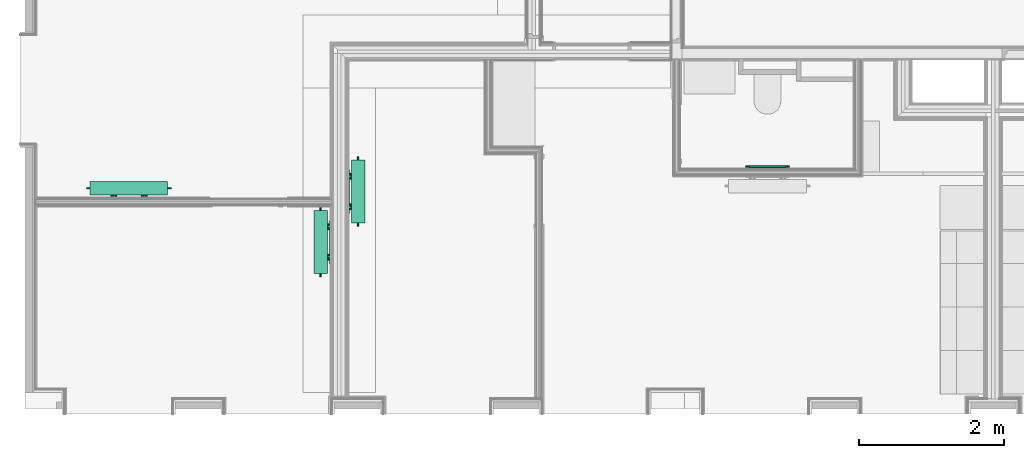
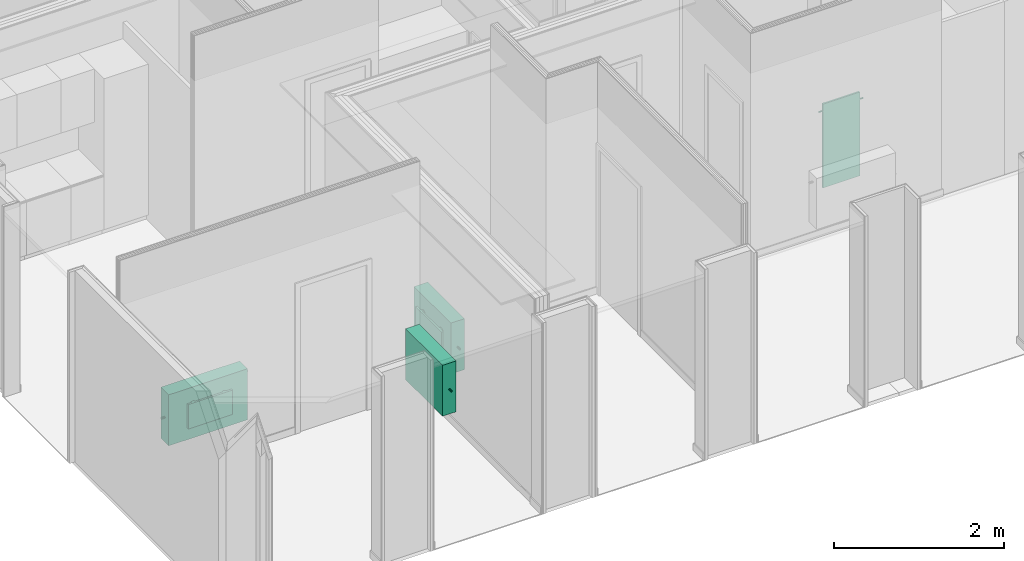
# One storey, part 55 of 64: 4 flow terminals.
"""IFC2X3 building model written with IfcOpenShell, lengths in metres."""

import ifcopenshell
import ifcopenshell.guid

model = None  # the IFC model being written
_history = None  # IfcOwnerHistory: only IFC2X3 demands one
_inside = {}  # id of a spatial element -> (the spatial element, [elements in it])
_under = {}  # id of a project, library or spatial element -> (it, [spatial elements below it])
_declared = {}  # id of a project -> (the project, [libraries it declares])
_typed = {}  # id of a type object -> (the type object, [elements of that type])
_made_of = {}  # id of a material, layer set ... -> (it, [elements and type objects made of it])


def new_model(schema):
    """Start an empty IFC model of exactly this schema.

    Asked for "IFC4X3", IfcOpenShell would pick the latest addendum, in which some entities
    have other attributes; the version numbers below select the first issue.
    IFC2X3 requires an IfcOwnerHistory on every rooted entity: one is made here for all.
    """
    global model, _history
    if schema == "IFC4X3":
        model = ifcopenshell.file(schema_version=(4, 3, 0, 0))
    else:
        model = ifcopenshell.file(schema=schema)
    _inside.clear()
    _under.clear()
    _declared.clear()
    _typed.clear()
    _made_of.clear()
    _history = None
    if model.schema == "IFC2X3":
        org = make("IfcOrganization", Name="unknown")
        user = make(
            "IfcPersonAndOrganization",
            ThePerson=make("IfcPerson", FamilyName="unknown"),
            TheOrganization=org,
        )
        app = make(
            "IfcApplication",
            ApplicationDeveloper=org,
            Version="unknown",
            ApplicationFullName="unknown",
            ApplicationIdentifier="unknown",
        )
        _history = make(
            "IfcOwnerHistory",
            OwningUser=user,
            OwningApplication=app,
            ChangeAction="ADDED",
            CreationDate=0,
        )
    return model


def make(cls, **values):
    """One entity of the class cls with the attributes given. An attribute that is None is left unset."""
    return model.create_entity(
        cls, **{name: value for name, value in values.items() if value is not None}
    )


def entity(cls, *values):
    """Any entity or typed value of the class cls, its attributes in the order of the schema. None: left unset."""
    e = model.create_entity(cls)
    for i, value in enumerate(values):
        if value is not None:
            e[i] = value
    return e


def rooted(cls, **values):
    """An entity with a GlobalId (a new one), such as an element, a storey or a relation."""
    return make(cls, GlobalId=ifcopenshell.guid.new(), OwnerHistory=_history, **values)


def si_unit(unit_type, name, prefix=None):
    """IfcSIUnit, for example si_unit("LENGTHUNIT", "METRE", prefix="MILLI")."""
    return make("IfcSIUnit", UnitType=unit_type, Prefix=prefix, Name=name)


def converted_unit(unit_type, name, factor, base, dimensions=None, offset=None):
    """IfcConversionBasedUnit, such as the inch: factor (a typed value) times the base unit."""
    return make(
        "IfcConversionBasedUnit"
        if offset is None
        else "IfcConversionBasedUnitWithOffset",
        ConversionOffset=offset,
        Dimensions=None
        if dimensions is None
        else entity("IfcDimensionalExponents", *dimensions),
        UnitType=unit_type,
        Name=name,
        ConversionFactor=make(
            "IfcMeasureWithUnit", ValueComponent=factor, UnitComponent=base
        ),
    )


def derived_unit(unit_type, elements):
    """IfcDerivedUnit: a product of units, each with its exponent."""
    return make(
        "IfcDerivedUnit",
        Elements=[
            make("IfcDerivedUnitElement", Unit=unit, Exponent=power)
            for unit, power in elements
        ],
        UnitType=unit_type,
    )


def money_unit(currency):
    """IfcMonetaryUnit."""
    return make("IfcMonetaryUnit", Currency=currency)


def assignment(units):
    """IfcUnitAssignment: the units of a project."""
    return None if units is None else make("IfcUnitAssignment", Units=units)


def point(xyz):
    """IfcCartesianPoint."""
    return None if xyz is None else make("IfcCartesianPoint", Coordinates=xyz)


def direction(xyz):
    """IfcDirection."""
    return None if xyz is None else make("IfcDirection", DirectionRatios=xyz)


def frame(location, z_axis=None, x_axis=None):
    """IfcAxis2Placement3D, a coordinate frame: its origin and axes. An axis left out is left unset."""
    return make(
        "IfcAxis2Placement3D",
        Location=point(location),
        Axis=direction(z_axis),
        RefDirection=direction(x_axis),
    )


def origin_with_axes():
    """The frame at (0, 0, 0) with the z axis (0, 0, 1) and the x axis (1, 0, 0) written out."""
    return frame((0.0, 0.0, 0.0), z_axis=(0.0, 0.0, 1.0), x_axis=(1.0, 0.0, 0.0))


def place(relative_to, where):
    """IfcLocalPlacement: puts the frame where relative to a parent placement (None: the world)."""
    return make(
        "IfcLocalPlacement", PlacementRelTo=relative_to, RelativePlacement=where
    )


def context(
    kind, dimensions, precision=None, world=None, true_north=None, identifier=None
):
    """IfcGeometricRepresentationContext, for example the 3D "Model" context."""
    return make(
        "IfcGeometricRepresentationContext",
        ContextIdentifier=identifier,
        ContextType=kind,
        CoordinateSpaceDimension=dimensions,
        Precision=precision,
        WorldCoordinateSystem=world,
        TrueNorth=true_north,
    )


def subcontext(parent, identifier, kind, view, scale=None):
    """IfcGeometricRepresentationSubContext, for example "Body" below "Model"."""
    return make(
        "IfcGeometricRepresentationSubContext",
        ContextIdentifier=identifier,
        ContextType=kind,
        ParentContext=parent,
        TargetScale=scale,
        TargetView=view,
    )


def project(units=None, contexts=None):
    """IfcProject with its units and contexts."""
    return rooted(
        "IfcProject",
        Name="project",
        RepresentationContexts=contexts,
        UnitsInContext=assignment(units),
    )


def spatial(cls, under=None, at=None, **own):
    """A site, building, storey or space (cls), placed at a placement, below another one or the project."""
    s = rooted(cls, ObjectPlacement=at, **own)
    if under is not None:
        _under.setdefault(under.id(), (under, []))[1].append(s)
    return s


def faces_of(points, faces, orient=None, outer=None):
    """IfcFace entities. A face is a list of loops; a loop is a list of indices into points, from 0.

    orient and outer hold one flag for each loop. By default every Orientation is true, the
    first loop of a face is its IfcFaceOuterBound and the others are IfcFaceBound.
    """
    made = []
    for i, loops in enumerate(faces):
        bounds = []
        for j, loop in enumerate(loops):
            is_outer = j == 0 if outer is None else outer[i][j]
            bounds.append(
                make(
                    "IfcFaceOuterBound" if is_outer else "IfcFaceBound",
                    Bound=make("IfcPolyLoop", Polygon=[points[k] for k in loop]),
                    Orientation=True if orient is None else orient[i][j],
                )
            )
        made.append(make("IfcFace", Bounds=bounds))
    return made


def open_shell(faces, orient=None, outer=None):
    """The faces of one IfcOpenShell. surface_model builds it on its shared points."""
    return ("IfcOpenShell", faces, orient, outer)


def surface_model(cls, points, shells):
    """IfcFaceBasedSurfaceModel or IfcShellBasedSurfaceModel (cls): surfaces that need not close."""
    shared = [point(p) for p in points]
    made = [make(c, CfsFaces=faces_of(shared, fs, o, b)) for c, fs, o, b in shells]
    if cls == "IfcFaceBasedSurfaceModel":
        return make(cls, FbsmFaces=made)
    return make(cls, SbsmBoundary=made)


def shape(context_of_items, identifier, shape_type, items):
    """IfcShapeRepresentation: the items that make up one representation, for example the "Body"."""
    return make(
        "IfcShapeRepresentation",
        ContextOfItems=context_of_items,
        RepresentationIdentifier=identifier,
        RepresentationType=shape_type,
        Items=items,
    )


def material(Name=None, Category=None):
    """IfcMaterial."""
    return make("IfcMaterial", Name=Name, Category=Category)


def made_of(thing, what):
    """Note that an element or type object is made of a material, layer set ...; save() writes the relation."""
    if what is not None:
        _made_of.setdefault(what.id(), (what, []))[1].append(thing)
    return thing


def type_object(cls, material=None, **own):
    """A type object (cls), such as IfcWallType, which elements share."""
    return made_of(rooted(cls, **own), material)


def element(
    cls,
    number,
    at=None,
    inside=None,
    cuts=None,
    type_object=None,
    material=None,
    context=None,
    identifier="Body",
    shape_type=None,
    held_by="IfcProductDefinitionShape",
    body=None,
    shapes=None,
    **own,
):
    """One element of the class cls, such as IfcWall. Its Tag is "e" and its number.

    at: its placement. inside: the storey or other place that contains it. cuts: it is an
    opening in that element (IfcRelVoidsElement). A single representation is given by context,
    identifier, shape_type and body (its items); several are given by shapes. held_by: the class
    of the entity that holds the representations. save() writes the other relations.
    """
    e = rooted(cls, Tag="e%d" % number, ObjectPlacement=at, **own)
    if body is not None:
        shapes = [shape(context, identifier, shape_type, body)]
    if shapes is not None:
        e.Representation = make(held_by, Representations=shapes)
    if inside is not None:
        _inside.setdefault(inside.id(), (inside, []))[1].append(e)
    if cuts is not None:
        rooted(
            "IfcRelVoidsElement", RelatingBuildingElement=cuts, RelatedOpeningElement=e
        )
    if type_object is not None:
        _typed.setdefault(type_object.id(), (type_object, []))[1].append(e)
    return made_of(e, material)


def aggregate(whole, parts):
    """IfcRelAggregates: a whole, such as a stair, and the parts it consists of."""
    return rooted("IfcRelAggregates", RelatingObject=whole, RelatedObjects=parts)


def save(model, path):
    """Write the relations noted so far, then the file.

    IfcRelAggregates (storeys below a building ...), IfcRelContainedInSpatialStructure (elements
    in a storey), IfcRelDefinesByType, IfcRelAssociatesMaterial and IfcRelDeclares: one each for
    every whole, place, type object, material and project.
    """
    for whole, parts in _under.values():
        aggregate(whole, parts)
    for where, things in _inside.values():
        rooted(
            "IfcRelContainedInSpatialStructure",
            RelatedElements=things,
            RelatingStructure=where,
        )
    for kind, things in _typed.values():
        rooted("IfcRelDefinesByType", RelatedObjects=things, RelatingType=kind)
    for what, things in _made_of.values():
        rooted("IfcRelAssociatesMaterial", RelatedObjects=things, RelatingMaterial=what)
    for by, libraries in _declared.values():
        rooted("IfcRelDeclares", RelatingContext=by, RelatedDefinitions=libraries)
    model.write(path)


model = new_model("IFC2X3")

# Units and contexts
model_context = context("Model", 3, precision=1e-05, world=origin_with_axes(), true_north=direction((0.0, 1.0)))
body_context = subcontext(model_context, "Body", "Model", "MODEL_VIEW", scale=1.0)
ifc_project = project(units=[si_unit("LENGTHUNIT", "METRE"), si_unit("AREAUNIT", "SQUARE_METRE"), si_unit("VOLUMEUNIT", "CUBIC_METRE"), si_unit("ABSORBEDDOSEUNIT", "GRAY"), si_unit("AMOUNTOFSUBSTANCEUNIT", "MOLE"), si_unit("DOSEEQUIVALENTUNIT", "SIEVERT"), si_unit("ELECTRICCAPACITANCEUNIT", "FARAD"), si_unit("ELECTRICCHARGEUNIT", "COULOMB"), si_unit("ELECTRICCONDUCTANCEUNIT", "SIEMENS"), si_unit("ELECTRICCURRENTUNIT", "AMPERE"), si_unit("ELECTRICRESISTANCEUNIT", "OHM"), si_unit("ELECTRICVOLTAGEUNIT", "VOLT"), si_unit("ENERGYUNIT", "JOULE"), si_unit("FORCEUNIT", "NEWTON"), si_unit("FREQUENCYUNIT", "HERTZ"), si_unit("ILLUMINANCEUNIT", "LUX"), si_unit("INDUCTANCEUNIT", "HENRY"), si_unit("LUMINOUSFLUXUNIT", "LUMEN"), si_unit("LUMINOUSINTENSITYUNIT", "CANDELA"), si_unit("MAGNETICFLUXDENSITYUNIT", "TESLA"), si_unit("MAGNETICFLUXUNIT", "WEBER"), si_unit("MASSUNIT", "GRAM"), converted_unit("PLANEANGLEUNIT", "degree", entity("IfcReal", 0.0174532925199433), si_unit("PLANEANGLEUNIT", "RADIAN"), dimensions=[0, 0, 0, 0, 0, 0, 0]), si_unit("POWERUNIT", "WATT"), si_unit("PRESSUREUNIT", "PASCAL"), si_unit("RADIOACTIVITYUNIT", "BECQUEREL"), si_unit("SOLIDANGLEUNIT", "STERADIAN"), si_unit("THERMODYNAMICTEMPERATUREUNIT", "KELVIN"), si_unit("TIMEUNIT", "SECOND"), derived_unit("ACCELERATIONUNIT", [(si_unit("LENGTHUNIT", "METRE"), 1), (si_unit("TIMEUNIT", "SECOND"), -2)]), derived_unit("ANGULARVELOCITYUNIT", [(converted_unit("PLANEANGLEUNIT", "degree", entity("IfcReal", 0.0174532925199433), si_unit("PLANEANGLEUNIT", "RADIAN"), dimensions=[0, 0, 0, 0, 0, 0, 0]), 1), (si_unit("TIMEUNIT", "SECOND"), -1)]), derived_unit("CURVATUREUNIT", [(converted_unit("PLANEANGLEUNIT", "degree", entity("IfcReal", 0.0174532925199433), si_unit("PLANEANGLEUNIT", "RADIAN"), dimensions=[0, 0, 0, 0, 0, 0, 0]), 1), (si_unit("LENGTHUNIT", "METRE"), -1)]), derived_unit("DYNAMICVISCOSITYUNIT", [(si_unit("PRESSUREUNIT", "PASCAL"), 1), (si_unit("TIMEUNIT", "SECOND"), 1)]), derived_unit("HEATFLUXDENSITYUNIT", [(si_unit("POWERUNIT", "WATT"), 1), (si_unit("LENGTHUNIT", "METRE"), -2)]), derived_unit("HEATINGVALUEUNIT", [(si_unit("ENERGYUNIT", "JOULE"), 1), (si_unit("MASSUNIT", "GRAM"), -1)]), derived_unit("INTEGERCOUNTRATEUNIT", [(si_unit("TIMEUNIT", "SECOND"), -1)]), derived_unit("IONCONCENTRATIONUNIT", [(si_unit("MASSUNIT", "GRAM"), 1), (si_unit("VOLUMEUNIT", "CUBIC_METRE"), -1)]), derived_unit("ISOTHERMALMOISTURECAPACITYUNIT", [(si_unit("VOLUMEUNIT", "CUBIC_METRE"), 1), (si_unit("MASSUNIT", "GRAM"), -1)]), derived_unit("KINEMATICVISCOSITYUNIT", [(si_unit("AREAUNIT", "SQUARE_METRE"), 1), (si_unit("TIMEUNIT", "SECOND"), -1)]), derived_unit("LINEARFORCEUNIT", [(si_unit("FORCEUNIT", "NEWTON"), 1), (si_unit("LENGTHUNIT", "METRE"), -1)]), derived_unit("LINEARMOMENTUNIT", [(si_unit("FORCEUNIT", "NEWTON"), 1), (si_unit("LENGTHUNIT", "METRE"), -1)]), derived_unit("LINEARSTIFFNESSUNIT", [(si_unit("FORCEUNIT", "NEWTON"), 1), (si_unit("LENGTHUNIT", "METRE"), -1)]), derived_unit("LINEARVELOCITYUNIT", [(si_unit("LENGTHUNIT", "METRE"), 1), (si_unit("TIMEUNIT", "SECOND"), -1)]), derived_unit("LUMINOUSINTENSITYDISTRIBUTIONUNIT", [(si_unit("LUMINOUSINTENSITYUNIT", "CANDELA"), 1), (si_unit("LUMINOUSFLUXUNIT", "LUMEN"), -1)]), derived_unit("MASSDENSITYUNIT", [(si_unit("MASSUNIT", "GRAM"), 1), (si_unit("VOLUMEUNIT", "CUBIC_METRE"), -1)]), derived_unit("MASSFLOWRATEUNIT", [(si_unit("MASSUNIT", "GRAM"), 1), (si_unit("TIMEUNIT", "SECOND"), -1)]), derived_unit("MASSPERLENGTHUNIT", [(si_unit("MASSUNIT", "GRAM"), 1), (si_unit("LENGTHUNIT", "METRE"), -1)]), derived_unit("MODULUSOFELASTICITYUNIT", [(si_unit("FORCEUNIT", "NEWTON"), 1), (si_unit("AREAUNIT", "SQUARE_METRE"), -1)]), derived_unit("MODULUSOFLINEARSUBGRADEREACTIONUNIT", [(si_unit("FORCEUNIT", "NEWTON"), 1), (si_unit("LENGTHUNIT", "METRE"), -2)]), derived_unit("MODULUSOFROTATIONALSUBGRADEREACTIONUNIT", [(si_unit("FORCEUNIT", "NEWTON"), 1), (si_unit("LENGTHUNIT", "METRE"), 1)]), derived_unit("MODULUSOFSUBGRADEREACTIONUNIT", [(si_unit("FORCEUNIT", "NEWTON"), 1), (si_unit("VOLUMEUNIT", "CUBIC_METRE"), -1)]), derived_unit("MOISTUREDIFFUSIVITYUNIT", [(si_unit("VOLUMEUNIT", "CUBIC_METRE"), 1), (si_unit("TIMEUNIT", "SECOND"), -1)]), derived_unit("MOLECULARWEIGHTUNIT", [(si_unit("MASSUNIT", "GRAM"), 1), (si_unit("AMOUNTOFSUBSTANCEUNIT", "MOLE"), -1)]), derived_unit("PLANARFORCEUNIT", [(si_unit("FORCEUNIT", "NEWTON"), 1), (si_unit("LENGTHUNIT", "METRE"), -2)]), derived_unit("ROTATIONALFREQUENCYUNIT", [(si_unit("TIMEUNIT", "SECOND"), -1)]), derived_unit("ROTATIONALMASSUNIT", [(si_unit("MASSUNIT", "GRAM"), 1), (si_unit("LENGTHUNIT", "METRE"), 2)]), derived_unit("ROTATIONALSTIFFNESSUNIT", [(si_unit("FORCEUNIT", "NEWTON"), 1), (si_unit("LENGTHUNIT", "METRE"), 1), (converted_unit("PLANEANGLEUNIT", "degree", entity("IfcReal", 0.0174532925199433), si_unit("PLANEANGLEUNIT", "RADIAN"), dimensions=[0, 0, 0, 0, 0, 0, 0]), -1)]), derived_unit("SECTIONAREAINTEGRALUNIT", [(si_unit("LENGTHUNIT", "METRE"), 5)]), derived_unit("SECTIONMODULUSUNIT", [(si_unit("LENGTHUNIT", "METRE"), 3)]), derived_unit("SHEARMODULUSUNIT", [(si_unit("FORCEUNIT", "NEWTON"), 1), (si_unit("AREAUNIT", "SQUARE_METRE"), -1)]), derived_unit("SOUNDPOWERUNIT", [(si_unit("ENERGYUNIT", "JOULE"), 1), (si_unit("TIMEUNIT", "SECOND"), -1)]), derived_unit("SPECIFICHEATCAPACITYUNIT", [(si_unit("FORCEUNIT", "NEWTON"), 1), (si_unit("MASSUNIT", "GRAM"), -1), (si_unit("THERMODYNAMICTEMPERATUREUNIT", "KELVIN"), -1)]), derived_unit("TEMPERATUREGRADIENTUNIT", [(si_unit("THERMODYNAMICTEMPERATUREUNIT", "KELVIN"), 1), (si_unit("LENGTHUNIT", "METRE"), -1)]), derived_unit("THERMALADMITTANCEUNIT", [(si_unit("POWERUNIT", "WATT"), 1), (si_unit("AREAUNIT", "SQUARE_METRE"), -1), (si_unit("THERMODYNAMICTEMPERATUREUNIT", "KELVIN"), -1)]), derived_unit("THERMALCONDUCTANCEUNIT", [(si_unit("POWERUNIT", "WATT"), 1), (si_unit("LENGTHUNIT", "METRE"), -1), (si_unit("THERMODYNAMICTEMPERATUREUNIT", "KELVIN"), -1)]), derived_unit("THERMALEXPANSIONCOEFFICIENTUNIT", [(si_unit("THERMODYNAMICTEMPERATUREUNIT", "KELVIN"), -1)]), derived_unit("THERMALRESISTANCEUNIT", [(si_unit("AREAUNIT", "SQUARE_METRE"), 1), (si_unit("POWERUNIT", "WATT"), -1)]), derived_unit("THERMALTRANSMITTANCEUNIT", [(si_unit("POWERUNIT", "WATT"), 1), (si_unit("AREAUNIT", "SQUARE_METRE"), -1), (si_unit("THERMODYNAMICTEMPERATUREUNIT", "KELVIN"), -1)]), derived_unit("TORQUEUNIT", [(si_unit("FORCEUNIT", "NEWTON"), 1), (si_unit("LENGTHUNIT", "METRE"), 1)]), derived_unit("VAPORPERMEABILITYUNIT", [(si_unit("MASSUNIT", "GRAM"), 1), (si_unit("TIMEUNIT", "SECOND"), -1)]), derived_unit("VOLUMETRICFLOWRATEUNIT", [(si_unit("VOLUMEUNIT", "CUBIC_METRE"), 1), (si_unit("TIMEUNIT", "SECOND"), -1)]), derived_unit("WARPINGCONSTANTUNIT", [(si_unit("LENGTHUNIT", "METRE"), 6)]), derived_unit("WARPINGMOMENTUNIT", [(si_unit("FORCEUNIT", "NEWTON"), 1), (si_unit("LENGTHUNIT", "METRE"), 2)]), money_unit("GBP")], contexts=[model_context])

# Site, building, storey, space
site_placement = place(None, origin_with_axes())
site = spatial("IfcSite", under=ifc_project, at=site_placement, Name="Site", CompositionType="ELEMENT")
building_placement = place(site_placement, origin_with_axes())
building = spatial("IfcBuilding", under=site, at=building_placement, Name="Building01", CompositionType="ELEMENT")
storey_placement = place(building_placement, frame((0.0, 0.0, 8.64), z_axis=(0.0, 0.0, 1.0), x_axis=(1.0, 0.0, 0.0)))
storey = spatial("IfcBuildingStorey", under=building, at=storey_placement, Name="2F", CompositionType="ELEMENT", Elevation=8.64)
space_1_placement = place(storey_placement, frame((7.064669, 7.111475, 0.017975), z_axis=(0.0, 0.0, 1.0), x_axis=(-1.0, 0.0, 0.0)))
space_1 = spatial("IfcSpace", under=storey, at=space_1_placement, Name="k/d/l", CompositionType="ELEMENT", InteriorOrExteriorSpace="NOTDEFINED")

# Flow terminal
ifc_material = material(Name="M_BSUK_Ventilation")
space_heater_type_1 = type_object("IfcSpaceHeaterType", Name="M-BmvRadiatorpanel-Panel", PredefinedType="NOTDEFINED")
flow_terminal_1_placement = place(storey_placement, frame((1.063939, 3.210536, 0.68), z_axis=(0.0, 0.0, 1.0), x_axis=(-1.0, 0.0, 0.0)))
element("IfcFlowTerminal", 1, at=flow_terminal_1_placement, inside=space_1, type_object=space_heater_type_1, material=ifc_material, Name="M-BmvRadiatorpanel-Panel", ObjectType="M-BmvRadiatorpanel-Panel", context=body_context, shape_type="SurfaceModel", body=[
    surface_model("IfcShellBasedSurfaceModel", [(-1.069, -0.0925, 0.365), (-1.069, 0.0925, 0.365), (0.0, 0.0925, 0.365), (0.0, -0.0925, 0.365), (-1.069, -0.0925, -0.365), (-1.069, 0.0925, -0.365), (0.0, -0.0925, -0.365), (0.0, 0.0925, -0.365), (-0.2345, 0.12025, 0.175), (-0.8345, 0.12025, 0.175), (-0.8345, 0.14525, 0.175), (-0.2345, 0.14525, 0.175), (-0.8345, 0.14525, -0.175), (-0.2345, 0.14525, -0.175), (-0.8345, 0.12025, -0.175), (-0.2345, 0.12025, -0.175), (-0.3245, 0.0925, 0.0775), (-0.3245, 0.12025, 0.0775), (-0.307279, 0.12025, 0.080925), (-0.307279, 0.0925, 0.080925), (-0.29268, 0.12025, 0.09068), (-0.29268, 0.0925, 0.09068), (-0.282925, 0.12025, 0.105279), (-0.282925, 0.0925, 0.105279), (-0.2795, 0.12025, 0.1225), (-0.2795, 0.0925, 0.1225), (-0.282925, 0.12025, 0.139721), (-0.282925, 0.0925, 0.139721), (-0.29268, 0.12025, 0.15432), (-0.29268, 0.0925, 0.15432), (-0.307279, 0.12025, 0.164075), (-0.307279, 0.0925, 0.164075), (-0.3245, 0.12025, 0.1675), (-0.3245, 0.0925, 0.1675), (-0.341721, 0.12025, 0.164075), (-0.341721, 0.0925, 0.164075), (-0.35632, 0.12025, 0.15432), (-0.35632, 0.0925, 0.15432), (-0.366075, 0.12025, 0.139721), (-0.366075, 0.0925, 0.139721), (-0.3695, 0.12025, 0.1225), (-0.3695, 0.0925, 0.1225), (-0.366075, 0.12025, 0.105279), (-0.366075, 0.0925, 0.105279), (-0.35632, 0.12025, 0.09068), (-0.35632, 0.0925, 0.09068), (-0.341721, 0.12025, 0.080925), (-0.341721, 0.0925, 0.080925), (-0.7445, 0.0925, 0.0775), (-0.7445, 0.12025, 0.0775), (-0.727279, 0.12025, 0.080925), (-0.727279, 0.0925, 0.080925), (-0.71268, 0.12025, 0.09068), (-0.71268, 0.0925, 0.09068), (-0.702925, 0.12025, 0.105279), (-0.702925, 0.0925, 0.105279), (-0.6995, 0.12025, 0.1225), (-0.6995, 0.0925, 0.1225), (-0.702925, 0.12025, 0.139721), (-0.702925, 0.0925, 0.139721), (-0.71268, 0.12025, 0.15432), (-0.71268, 0.0925, 0.15432), (-0.727279, 0.12025, 0.164075), (-0.727279, 0.0925, 0.164075), (-0.7445, 0.12025, 0.1675), (-0.7445, 0.0925, 0.1675), (-0.761721, 0.12025, 0.164075), (-0.761721, 0.0925, 0.164075), (-0.77632, 0.12025, 0.15432), (-0.77632, 0.0925, 0.15432), (-0.786075, 0.12025, 0.139721), (-0.786075, 0.0925, 0.139721), (-0.7895, 0.12025, 0.1225), (-0.7895, 0.0925, 0.1225), (-0.786075, 0.12025, 0.105279), (-0.786075, 0.0925, 0.105279), (-0.77632, 0.12025, 0.09068), (-0.77632, 0.0925, 0.09068), (-0.761721, 0.12025, 0.080925), (-0.761721, 0.0925, 0.080925), (0.05, 0.0, -0.0225), (0.0, 0.0, -0.0225), (0.0, 0.004784, -0.021548), (0.05, 0.004784, -0.021548), (0.0, 0.008839, -0.018839), (0.05, 0.008839, -0.018839), (0.0, 0.011548, -0.014784), (0.05, 0.011548, -0.014784), (0.0, 0.0125, -0.01), (0.05, 0.0125, -0.01), (0.0, 0.011548, -0.005216), (0.05, 0.011548, -0.005216), (0.0, 0.008839, -0.001161), (0.05, 0.008839, -0.001161), (0.0, 0.004784, 0.001548), (0.05, 0.004784, 0.001548), (0.0, 0.0, 0.0025), (0.05, 0.0, 0.0025), (0.0, -0.004784, 0.001548), (0.05, -0.004784, 0.001548), (0.0, -0.008839, -0.001161), (0.05, -0.008839, -0.001161), (0.0, -0.011548, -0.005216), (0.05, -0.011548, -0.005216), (0.0, -0.0125, -0.01), (0.05, -0.0125, -0.01), (0.0, -0.011548, -0.014784), (0.05, -0.011548, -0.014784), (0.0, -0.008839, -0.018839), (0.05, -0.008839, -0.018839), (0.0, -0.004784, -0.021548), (0.05, -0.004784, -0.021548), (-1.119, 0.0, 0.2525), (-1.069, 0.0, 0.2525), (-1.069, -0.004784, 0.253452), (-1.119, -0.004784, 0.253452), (-1.069, -0.008839, 0.256161), (-1.119, -0.008839, 0.256161), (-1.069, -0.011548, 0.260216), (-1.119, -0.011548, 0.260216), (-1.069, -0.0125, 0.265), (-1.119, -0.0125, 0.265), (-1.069, -0.011548, 0.269784), (-1.119, -0.011548, 0.269784), (-1.069, -0.008839, 0.273839), (-1.119, -0.008839, 0.273839), (-1.069, -0.004784, 0.276548), (-1.119, -0.004784, 0.276548), (-1.069, 0.0, 0.2775), (-1.119, 0.0, 0.2775), (-1.069, 0.004784, 0.276548), (-1.119, 0.004784, 0.276548), (-1.069, 0.008839, 0.273839), (-1.119, 0.008839, 0.273839), (-1.069, 0.011548, 0.269784), (-1.119, 0.011548, 0.269784), (-1.069, 0.0125, 0.265), (-1.119, 0.0125, 0.265), (-1.069, 0.011548, 0.260216), (-1.119, 0.011548, 0.260216), (-1.069, 0.008839, 0.256161), (-1.119, 0.008839, 0.256161), (-1.069, 0.004784, 0.253452), (-1.119, 0.004784, 0.253452)], [open_shell([[[0, 1, 2, 3]], [[4, 5, 1, 0]], [[6, 7, 5, 4]], [[3, 2, 7, 6]], [[1, 5, 7, 2]], [[3, 6, 4, 0]], [[8, 9, 10, 11]], [[11, 10, 12, 13]], [[13, 12, 14, 15]], [[15, 14, 9, 8]], [[9, 14, 12, 10]], [[11, 13, 15, 8]], [[16, 17, 18, 19]], [[19, 18, 20, 21]], [[21, 20, 22, 23]], [[23, 22, 24, 25]], [[25, 24, 26, 27]], [[27, 26, 28, 29]], [[29, 28, 30, 31]], [[31, 30, 32, 33]], [[33, 32, 34, 35]], [[35, 34, 36, 37]], [[37, 36, 38, 39]], [[39, 38, 40, 41]], [[41, 40, 42, 43]], [[43, 42, 44, 45]], [[45, 44, 46, 47]], [[47, 46, 17, 16]], [[48, 49, 50, 51]], [[51, 50, 52, 53]], [[53, 52, 54, 55]], [[55, 54, 56, 57]], [[57, 56, 58, 59]], [[59, 58, 60, 61]], [[61, 60, 62, 63]], [[63, 62, 64, 65]], [[65, 64, 66, 67]], [[67, 66, 68, 69]], [[69, 68, 70, 71]], [[71, 70, 72, 73]], [[73, 72, 74, 75]], [[75, 74, 76, 77]], [[77, 76, 78, 79]], [[79, 78, 49, 48]], [[80, 81, 82, 83]], [[83, 82, 84, 85]], [[85, 84, 86, 87]], [[87, 86, 88, 89]], [[89, 88, 90, 91]], [[91, 90, 92, 93]], [[93, 92, 94, 95]], [[95, 94, 96, 97]], [[97, 96, 98, 99]], [[99, 98, 100, 101]], [[101, 100, 102, 103]], [[103, 102, 104, 105]], [[105, 104, 106, 107]], [[107, 106, 108, 109]], [[109, 108, 110, 111]], [[111, 110, 81, 80]], [[112, 113, 114, 115]], [[115, 114, 116, 117]], [[117, 116, 118, 119]], [[119, 118, 120, 121]], [[121, 120, 122, 123]], [[123, 122, 124, 125]], [[125, 124, 126, 127]], [[127, 126, 128, 129]], [[129, 128, 130, 131]], [[131, 130, 132, 133]], [[133, 132, 134, 135]], [[135, 134, 136, 137]], [[137, 136, 138, 139]], [[139, 138, 140, 141]], [[141, 140, 142, 143]], [[143, 142, 113, 112]]])]),
])

# Space
space_2_placement = place(storey_placement, frame((0.318, 8.21067, 0.017975), z_axis=(0.0, 0.0, 1.0), x_axis=(0.0, -1.0, 0.0)))
space_2 = spatial("IfcSpace", under=storey, at=space_2_placement, Name="13", CompositionType="ELEMENT", InteriorOrExteriorSpace="NOTDEFINED")

# Flow terminal
flow_terminal_2_placement = place(storey_placement, frame((4.23975, 2.036286, 0.68), z_axis=(0.0, 0.0, 1.0), x_axis=(0.0, -1.0, 0.0)))
element("IfcFlowTerminal", 2, at=flow_terminal_2_placement, inside=space_2, type_object=space_heater_type_1, material=ifc_material, Name="M-BmvRadiatorpanel-Panel", ObjectType="M-BmvRadiatorpanel-Panel", context=body_context, shape_type="SurfaceModel", body=[
    surface_model("IfcShellBasedSurfaceModel", [(-0.865, -0.0925, 0.365), (-0.865, 0.0925, 0.365), (0.0, 0.0925, 0.365), (0.0, -0.0925, 0.365), (-0.865, -0.0925, -0.365), (-0.865, 0.0925, -0.365), (0.0, -0.0925, -0.365), (0.0, 0.0925, -0.365), (-0.1325, 0.12025, 0.175), (-0.7325, 0.12025, 0.175), (-0.7325, 0.14525, 0.175), (-0.1325, 0.14525, 0.175), (-0.7325, 0.14525, -0.175), (-0.1325, 0.14525, -0.175), (-0.7325, 0.12025, -0.175), (-0.1325, 0.12025, -0.175), (-0.2225, 0.0925, 0.0775), (-0.2225, 0.12025, 0.0775), (-0.205279, 0.12025, 0.080925), (-0.205279, 0.0925, 0.080925), (-0.19068, 0.12025, 0.09068), (-0.19068, 0.0925, 0.09068), (-0.180925, 0.12025, 0.105279), (-0.180925, 0.0925, 0.105279), (-0.1775, 0.12025, 0.1225), (-0.1775, 0.0925, 0.1225), (-0.180925, 0.12025, 0.139721), (-0.180925, 0.0925, 0.139721), (-0.19068, 0.12025, 0.15432), (-0.19068, 0.0925, 0.15432), (-0.205279, 0.12025, 0.164075), (-0.205279, 0.0925, 0.164075), (-0.2225, 0.12025, 0.1675), (-0.2225, 0.0925, 0.1675), (-0.239721, 0.12025, 0.164075), (-0.239721, 0.0925, 0.164075), (-0.25432, 0.12025, 0.15432), (-0.25432, 0.0925, 0.15432), (-0.264075, 0.12025, 0.139721), (-0.264075, 0.0925, 0.139721), (-0.2675, 0.12025, 0.1225), (-0.2675, 0.0925, 0.1225), (-0.264075, 0.12025, 0.105279), (-0.264075, 0.0925, 0.105279), (-0.25432, 0.12025, 0.09068), (-0.25432, 0.0925, 0.09068), (-0.239721, 0.12025, 0.080925), (-0.239721, 0.0925, 0.080925), (-0.6425, 0.0925, 0.0775), (-0.6425, 0.12025, 0.0775), (-0.625279, 0.12025, 0.080925), (-0.625279, 0.0925, 0.080925), (-0.61068, 0.12025, 0.09068), (-0.61068, 0.0925, 0.09068), (-0.600925, 0.12025, 0.105279), (-0.600925, 0.0925, 0.105279), (-0.5975, 0.12025, 0.1225), (-0.5975, 0.0925, 0.1225), (-0.600925, 0.12025, 0.139721), (-0.600925, 0.0925, 0.139721), (-0.61068, 0.12025, 0.15432), (-0.61068, 0.0925, 0.15432), (-0.625279, 0.12025, 0.164075), (-0.625279, 0.0925, 0.164075), (-0.6425, 0.12025, 0.1675), (-0.6425, 0.0925, 0.1675), (-0.659721, 0.12025, 0.164075), (-0.659721, 0.0925, 0.164075), (-0.67432, 0.12025, 0.15432), (-0.67432, 0.0925, 0.15432), (-0.684075, 0.12025, 0.139721), (-0.684075, 0.0925, 0.139721), (-0.6875, 0.12025, 0.1225), (-0.6875, 0.0925, 0.1225), (-0.684075, 0.12025, 0.105279), (-0.684075, 0.0925, 0.105279), (-0.67432, 0.12025, 0.09068), (-0.67432, 0.0925, 0.09068), (-0.659721, 0.12025, 0.080925), (-0.659721, 0.0925, 0.080925), (0.05, 0.0, -0.0225), (0.0, 0.0, -0.0225), (0.0, 0.004784, -0.021548), (0.05, 0.004784, -0.021548), (0.0, 0.008839, -0.018839), (0.05, 0.008839, -0.018839), (0.0, 0.011548, -0.014784), (0.05, 0.011548, -0.014784), (0.0, 0.0125, -0.01), (0.05, 0.0125, -0.01), (0.0, 0.011548, -0.005216), (0.05, 0.011548, -0.005216), (0.0, 0.008839, -0.001161), (0.05, 0.008839, -0.001161), (0.0, 0.004784, 0.001548), (0.05, 0.004784, 0.001548), (0.0, 0.0, 0.0025), (0.05, 0.0, 0.0025), (0.0, -0.004784, 0.001548), (0.05, -0.004784, 0.001548), (0.0, -0.008839, -0.001161), (0.05, -0.008839, -0.001161), (0.0, -0.011548, -0.005216), (0.05, -0.011548, -0.005216), (0.0, -0.0125, -0.01), (0.05, -0.0125, -0.01), (0.0, -0.011548, -0.014784), (0.05, -0.011548, -0.014784), (0.0, -0.008839, -0.018839), (0.05, -0.008839, -0.018839), (0.0, -0.004784, -0.021548), (0.05, -0.004784, -0.021548), (-0.915, 0.0, 0.2525), (-0.865, 0.0, 0.2525), (-0.865, -0.004784, 0.253452), (-0.915, -0.004784, 0.253452), (-0.865, -0.008839, 0.256161), (-0.915, -0.008839, 0.256161), (-0.865, -0.011548, 0.260216), (-0.915, -0.011548, 0.260216), (-0.865, -0.0125, 0.265), (-0.915, -0.0125, 0.265), (-0.865, -0.011548, 0.269784), (-0.915, -0.011548, 0.269784), (-0.865, -0.008839, 0.273839), (-0.915, -0.008839, 0.273839), (-0.865, -0.004784, 0.276548), (-0.915, -0.004784, 0.276548), (-0.865, 0.0, 0.2775), (-0.915, 0.0, 0.2775), (-0.865, 0.004784, 0.276548), (-0.915, 0.004784, 0.276548), (-0.865, 0.008839, 0.273839), (-0.915, 0.008839, 0.273839), (-0.865, 0.011548, 0.269784), (-0.915, 0.011548, 0.269784), (-0.865, 0.0125, 0.265), (-0.915, 0.0125, 0.265), (-0.865, 0.011548, 0.260216), (-0.915, 0.011548, 0.260216), (-0.865, 0.008839, 0.256161), (-0.915, 0.008839, 0.256161), (-0.865, 0.004784, 0.253452), (-0.915, 0.004784, 0.253452)], [open_shell([[[0, 1, 2, 3]], [[4, 5, 1, 0]], [[6, 7, 5, 4]], [[3, 2, 7, 6]], [[1, 5, 7, 2]], [[3, 6, 4, 0]], [[8, 9, 10, 11]], [[11, 10, 12, 13]], [[13, 12, 14, 15]], [[15, 14, 9, 8]], [[9, 14, 12, 10]], [[11, 13, 15, 8]], [[16, 17, 18, 19]], [[19, 18, 20, 21]], [[21, 20, 22, 23]], [[23, 22, 24, 25]], [[25, 24, 26, 27]], [[27, 26, 28, 29]], [[29, 28, 30, 31]], [[31, 30, 32, 33]], [[33, 32, 34, 35]], [[35, 34, 36, 37]], [[37, 36, 38, 39]], [[39, 38, 40, 41]], [[41, 40, 42, 43]], [[43, 42, 44, 45]], [[45, 44, 46, 47]], [[47, 46, 17, 16]], [[48, 49, 50, 51]], [[51, 50, 52, 53]], [[53, 52, 54, 55]], [[55, 54, 56, 57]], [[57, 56, 58, 59]], [[59, 58, 60, 61]], [[61, 60, 62, 63]], [[63, 62, 64, 65]], [[65, 64, 66, 67]], [[67, 66, 68, 69]], [[69, 68, 70, 71]], [[71, 70, 72, 73]], [[73, 72, 74, 75]], [[75, 74, 76, 77]], [[77, 76, 78, 79]], [[79, 78, 49, 48]], [[80, 81, 82, 83]], [[83, 82, 84, 85]], [[85, 84, 86, 87]], [[87, 86, 88, 89]], [[89, 88, 90, 91]], [[91, 90, 92, 93]], [[93, 92, 94, 95]], [[95, 94, 96, 97]], [[97, 96, 98, 99]], [[99, 98, 100, 101]], [[101, 100, 102, 103]], [[103, 102, 104, 105]], [[105, 104, 106, 107]], [[107, 106, 108, 109]], [[109, 108, 110, 111]], [[111, 110, 81, 80]], [[112, 113, 114, 115]], [[115, 114, 116, 117]], [[117, 116, 118, 119]], [[119, 118, 120, 121]], [[121, 120, 122, 123]], [[123, 122, 124, 125]], [[125, 124, 126, 127]], [[127, 126, 128, 129]], [[129, 128, 130, 131]], [[131, 130, 132, 133]], [[133, 132, 134, 135]], [[135, 134, 136, 137]], [[137, 136, 138, 139]], [[139, 138, 140, 141]], [[141, 140, 142, 143]], [[143, 142, 113, 112]]])]),
])

# Space
space_3_placement = place(storey_placement, frame((4.61, 4.98, 0.017975), z_axis=(0.0, 0.0, 1.0), x_axis=(0.0, -1.0, 0.0)))
space_3 = spatial("IfcSpace", under=storey, at=space_3_placement, Name="bed", CompositionType="ELEMENT", InteriorOrExteriorSpace="NOTDEFINED")

# Flow terminal
flow_terminal_3_placement = place(storey_placement, frame((4.75525, 2.7335, 0.68), z_axis=(0.0, 0.0, 1.0), x_axis=(0.0, 1.0, 0.0)))
element("IfcFlowTerminal", 3, at=flow_terminal_3_placement, inside=space_3, type_object=space_heater_type_1, material=ifc_material, Name="M-BmvRadiatorpanel-Panel", ObjectType="M-BmvRadiatorpanel-Panel", context=body_context, shape_type="SurfaceModel", body=[
    surface_model("IfcShellBasedSurfaceModel", [(0.865, -0.0925, 0.365), (0.865, 0.0925, 0.365), (0.0, 0.0925, 0.365), (0.0, -0.0925, 0.365), (0.865, -0.0925, -0.365), (0.865, 0.0925, -0.365), (0.0, -0.0925, -0.365), (0.0, 0.0925, -0.365), (0.1325, 0.12025, 0.175), (0.7325, 0.12025, 0.175), (0.7325, 0.14525, 0.175), (0.1325, 0.14525, 0.175), (0.7325, 0.14525, -0.175), (0.1325, 0.14525, -0.175), (0.7325, 0.12025, -0.175), (0.1325, 0.12025, -0.175), (0.2225, 0.0925, 0.0775), (0.2225, 0.12025, 0.0775), (0.239721, 0.12025, 0.080925), (0.239721, 0.0925, 0.080925), (0.25432, 0.12025, 0.09068), (0.25432, 0.0925, 0.09068), (0.264075, 0.12025, 0.105279), (0.264075, 0.0925, 0.105279), (0.2675, 0.12025, 0.1225), (0.2675, 0.0925, 0.1225), (0.264075, 0.12025, 0.139721), (0.264075, 0.0925, 0.139721), (0.25432, 0.12025, 0.15432), (0.25432, 0.0925, 0.15432), (0.239721, 0.12025, 0.164075), (0.239721, 0.0925, 0.164075), (0.2225, 0.12025, 0.1675), (0.2225, 0.0925, 0.1675), (0.205279, 0.12025, 0.164075), (0.205279, 0.0925, 0.164075), (0.19068, 0.12025, 0.15432), (0.19068, 0.0925, 0.15432), (0.180925, 0.12025, 0.139721), (0.180925, 0.0925, 0.139721), (0.1775, 0.12025, 0.1225), (0.1775, 0.0925, 0.1225), (0.180925, 0.12025, 0.105279), (0.180925, 0.0925, 0.105279), (0.19068, 0.12025, 0.09068), (0.19068, 0.0925, 0.09068), (0.205279, 0.12025, 0.080925), (0.205279, 0.0925, 0.080925), (0.6425, 0.0925, 0.0775), (0.6425, 0.12025, 0.0775), (0.659721, 0.12025, 0.080925), (0.659721, 0.0925, 0.080925), (0.67432, 0.12025, 0.09068), (0.67432, 0.0925, 0.09068), (0.684075, 0.12025, 0.105279), (0.684075, 0.0925, 0.105279), (0.6875, 0.12025, 0.1225), (0.6875, 0.0925, 0.1225), (0.684075, 0.12025, 0.139721), (0.684075, 0.0925, 0.139721), (0.67432, 0.12025, 0.15432), (0.67432, 0.0925, 0.15432), (0.659721, 0.12025, 0.164075), (0.659721, 0.0925, 0.164075), (0.6425, 0.12025, 0.1675), (0.6425, 0.0925, 0.1675), (0.625279, 0.12025, 0.164075), (0.625279, 0.0925, 0.164075), (0.61068, 0.12025, 0.15432), (0.61068, 0.0925, 0.15432), (0.600925, 0.12025, 0.139721), (0.600925, 0.0925, 0.139721), (0.5975, 0.12025, 0.1225), (0.5975, 0.0925, 0.1225), (0.600925, 0.12025, 0.105279), (0.600925, 0.0925, 0.105279), (0.61068, 0.12025, 0.09068), (0.61068, 0.0925, 0.09068), (0.625279, 0.12025, 0.080925), (0.625279, 0.0925, 0.080925), (-0.05, 0.0, -0.0225), (0.0, 0.0, -0.0225), (0.0, -0.004784, -0.021548), (-0.05, -0.004784, -0.021548), (0.0, -0.008839, -0.018839), (-0.05, -0.008839, -0.018839), (0.0, -0.011548, -0.014784), (-0.05, -0.011548, -0.014784), (0.0, -0.0125, -0.01), (-0.05, -0.0125, -0.01), (0.0, -0.011548, -0.005216), (-0.05, -0.011548, -0.005216), (0.0, -0.008839, -0.001161), (-0.05, -0.008839, -0.001161), (0.0, -0.004784, 0.001548), (-0.05, -0.004784, 0.001548), (0.0, 0.0, 0.0025), (-0.05, 0.0, 0.0025), (0.0, 0.004784, 0.001548), (-0.05, 0.004784, 0.001548), (0.0, 0.008839, -0.001161), (-0.05, 0.008839, -0.001161), (0.0, 0.011548, -0.005216), (-0.05, 0.011548, -0.005216), (0.0, 0.0125, -0.01), (-0.05, 0.0125, -0.01), (0.0, 0.011548, -0.014784), (-0.05, 0.011548, -0.014784), (0.0, 0.008839, -0.018839), (-0.05, 0.008839, -0.018839), (0.0, 0.004784, -0.021548), (-0.05, 0.004784, -0.021548), (0.915, 0.0, 0.2525), (0.865, 0.0, 0.2525), (0.865, 0.004784, 0.253452), (0.915, 0.004784, 0.253452), (0.865, 0.008839, 0.256161), (0.915, 0.008839, 0.256161), (0.865, 0.011548, 0.260216), (0.915, 0.011548, 0.260216), (0.865, 0.0125, 0.265), (0.915, 0.0125, 0.265), (0.865, 0.011548, 0.269784), (0.915, 0.011548, 0.269784), (0.865, 0.008839, 0.273839), (0.915, 0.008839, 0.273839), (0.865, 0.004784, 0.276548), (0.915, 0.004784, 0.276548), (0.865, 0.0, 0.2775), (0.915, 0.0, 0.2775), (0.865, -0.004784, 0.276548), (0.915, -0.004784, 0.276548), (0.865, -0.008839, 0.273839), (0.915, -0.008839, 0.273839), (0.865, -0.011548, 0.269784), (0.915, -0.011548, 0.269784), (0.865, -0.0125, 0.265), (0.915, -0.0125, 0.265), (0.865, -0.011548, 0.260216), (0.915, -0.011548, 0.260216), (0.865, -0.008839, 0.256161), (0.915, -0.008839, 0.256161), (0.865, -0.004784, 0.253452), (0.915, -0.004784, 0.253452)], [open_shell([[[0, 1, 2, 3]], [[4, 5, 1, 0]], [[6, 7, 5, 4]], [[3, 2, 7, 6]], [[1, 5, 7, 2]], [[3, 6, 4, 0]], [[8, 9, 10, 11]], [[11, 10, 12, 13]], [[13, 12, 14, 15]], [[15, 14, 9, 8]], [[9, 14, 12, 10]], [[11, 13, 15, 8]], [[16, 17, 18, 19]], [[19, 18, 20, 21]], [[21, 20, 22, 23]], [[23, 22, 24, 25]], [[25, 24, 26, 27]], [[27, 26, 28, 29]], [[29, 28, 30, 31]], [[31, 30, 32, 33]], [[33, 32, 34, 35]], [[35, 34, 36, 37]], [[37, 36, 38, 39]], [[39, 38, 40, 41]], [[41, 40, 42, 43]], [[43, 42, 44, 45]], [[45, 44, 46, 47]], [[47, 46, 17, 16]], [[48, 49, 50, 51]], [[51, 50, 52, 53]], [[53, 52, 54, 55]], [[55, 54, 56, 57]], [[57, 56, 58, 59]], [[59, 58, 60, 61]], [[61, 60, 62, 63]], [[63, 62, 64, 65]], [[65, 64, 66, 67]], [[67, 66, 68, 69]], [[69, 68, 70, 71]], [[71, 70, 72, 73]], [[73, 72, 74, 75]], [[75, 74, 76, 77]], [[77, 76, 78, 79]], [[79, 78, 49, 48]], [[80, 81, 82, 83]], [[83, 82, 84, 85]], [[85, 84, 86, 87]], [[87, 86, 88, 89]], [[89, 88, 90, 91]], [[91, 90, 92, 93]], [[93, 92, 94, 95]], [[95, 94, 96, 97]], [[97, 96, 98, 99]], [[99, 98, 100, 101]], [[101, 100, 102, 103]], [[103, 102, 104, 105]], [[105, 104, 106, 107]], [[107, 106, 108, 109]], [[109, 108, 110, 111]], [[111, 110, 81, 80]], [[112, 113, 114, 115]], [[115, 114, 116, 117]], [[117, 116, 118, 119]], [[119, 118, 120, 121]], [[121, 120, 122, 123]], [[123, 122, 124, 125]], [[125, 124, 126, 127]], [[127, 126, 128, 129]], [[129, 128, 130, 131]], [[131, 130, 132, 133]], [[133, 132, 134, 135]], [[135, 134, 136, 137]], [[137, 136, 138, 139]], [[139, 138, 140, 141]], [[141, 140, 142, 143]], [[143, 142, 113, 112]]])]),
])

# Space
space_4_placement = place(storey_placement, frame((12.15, 4.98, 0.017975), z_axis=(0.0, 0.0, 1.0), x_axis=(-1.0, 0.0, 0.0)))
space_4 = spatial("IfcSpace", under=storey, at=space_4_placement, Name="12", CompositionType="ELEMENT", InteriorOrExteriorSpace="NOTDEFINED")

# Flow terminal
space_heater_type_2 = type_object("IfcSpaceHeaterType", Name="M-BmvRadiator-Column", PredefinedType="NOTDEFINED")
flow_terminal_4_placement = place(storey_placement, frame((10.642536, 3.5075, 1.2), z_axis=(0.0, 0.0, 1.0), x_axis=(1.0, 0.0, 0.0)))
element("IfcFlowTerminal", 4, at=flow_terminal_4_placement, inside=space_4, type_object=space_heater_type_2, material=ifc_material, Name="M-BmvRadiator-Column", ObjectType="M-BmvRadiator-Column", context=body_context, shape_type="SurfaceModel", body=[
    surface_model("IfcShellBasedSurfaceModel", [(0.0, -0.0125, 0.6), (0.0, -0.0125, -0.6), (0.0, 0.0125, -0.6), (0.0, 0.0125, 0.6), (-0.5, -0.0125, 0.6), (-0.5, -0.0125, -0.6), (-0.5, 0.0125, -0.6), (-0.5, 0.0125, 0.6), (-0.1, 0.0125, 0.6), (-0.1, -0.0125, 0.6), (-0.1, -0.0125, -0.6), (-0.1, 0.0125, -0.6), (-0.2, 0.0125, 0.6), (-0.2, -0.0125, 0.6), (-0.2, -0.0125, -0.6), (-0.2, 0.0125, -0.6), (-0.3, 0.0125, 0.6), (-0.3, -0.0125, 0.6), (-0.3, -0.0125, -0.6), (-0.3, 0.0125, -0.6), (-0.4, 0.0125, 0.6), (-0.4, -0.0125, 0.6), (-0.4, -0.0125, -0.6), (-0.4, 0.0125, -0.6), (0.05, 0.0, 0.4825), (0.0, 0.0, 0.4825), (0.0, 0.003827, 0.483261), (0.05, 0.003827, 0.483261), (0.0, 0.007071, 0.485429), (0.05, 0.007071, 0.485429), (0.0, 0.009239, 0.488673), (0.05, 0.009239, 0.488673), (0.0, 0.01, 0.4925), (0.05, 0.01, 0.4925), (0.0, 0.009239, 0.496327), (0.05, 0.009239, 0.496327), (0.0, 0.007071, 0.499571), (0.05, 0.007071, 0.499571), (0.0, 0.003827, 0.501739), (0.05, 0.003827, 0.501739), (0.0, 0.0, 0.5025), (0.05, 0.0, 0.5025), (0.0, -0.003827, 0.501739), (0.05, -0.003827, 0.501739), (0.0, -0.007071, 0.499571), (0.05, -0.007071, 0.499571), (0.0, -0.009239, 0.496327), (0.05, -0.009239, 0.496327), (0.0, -0.01, 0.4925), (0.05, -0.01, 0.4925), (0.0, -0.009239, 0.488673), (0.05, -0.009239, 0.488673), (0.0, -0.007071, 0.485429), (0.05, -0.007071, 0.485429), (0.0, -0.003827, 0.483261), (0.05, -0.003827, 0.483261), (-0.55, 0.0, 0.4884), (-0.5, 0.0, 0.4884), (-0.5, -0.003827, 0.489161), (-0.55, -0.003827, 0.489161), (-0.5, -0.007071, 0.491329), (-0.55, -0.007071, 0.491329), (-0.5, -0.009239, 0.494573), (-0.55, -0.009239, 0.494573), (-0.5, -0.01, 0.4984), (-0.55, -0.01, 0.4984), (-0.5, -0.009239, 0.502227), (-0.55, -0.009239, 0.502227), (-0.5, -0.007071, 0.505471), (-0.55, -0.007071, 0.505471), (-0.5, -0.003827, 0.507639), (-0.55, -0.003827, 0.507639), (-0.5, 0.0, 0.5084), (-0.55, 0.0, 0.5084), (-0.5, 0.003827, 0.507639), (-0.55, 0.003827, 0.507639), (-0.5, 0.007071, 0.505471), (-0.55, 0.007071, 0.505471), (-0.5, 0.009239, 0.502227), (-0.55, 0.009239, 0.502227), (-0.5, 0.01, 0.4984), (-0.55, 0.01, 0.4984), (-0.5, 0.009239, 0.494573), (-0.55, 0.009239, 0.494573), (-0.5, 0.007071, 0.491329), (-0.55, 0.007071, 0.491329), (-0.5, 0.003827, 0.489161), (-0.55, 0.003827, 0.489161)], [open_shell([[[0, 1, 2, 3]], [[4, 5, 6, 7]], [[8, 3, 0, 9]], [[9, 0, 1, 10]], [[10, 1, 2, 11]], [[11, 2, 3, 8]], [[12, 8, 9, 13]], [[13, 9, 10, 14]], [[14, 10, 11, 15]], [[15, 11, 8, 12]], [[16, 12, 13, 17]], [[17, 13, 14, 18]], [[18, 14, 15, 19]], [[19, 15, 12, 16]], [[20, 16, 17, 21]], [[21, 17, 18, 22]], [[22, 18, 19, 23]], [[23, 19, 16, 20]], [[7, 20, 21, 4]], [[4, 21, 22, 5]], [[5, 22, 23, 6]], [[6, 23, 20, 7]], [[24, 25, 26, 27]], [[27, 26, 28, 29]], [[29, 28, 30, 31]], [[31, 30, 32, 33]], [[33, 32, 34, 35]], [[35, 34, 36, 37]], [[37, 36, 38, 39]], [[39, 38, 40, 41]], [[41, 40, 42, 43]], [[43, 42, 44, 45]], [[45, 44, 46, 47]], [[47, 46, 48, 49]], [[49, 48, 50, 51]], [[51, 50, 52, 53]], [[53, 52, 54, 55]], [[55, 54, 25, 24]], [[56, 57, 58, 59]], [[59, 58, 60, 61]], [[61, 60, 62, 63]], [[63, 62, 64, 65]], [[65, 64, 66, 67]], [[67, 66, 68, 69]], [[69, 68, 70, 71]], [[71, 70, 72, 73]], [[73, 72, 74, 75]], [[75, 74, 76, 77]], [[77, 76, 78, 79]], [[79, 78, 80, 81]], [[81, 80, 82, 83]], [[83, 82, 84, 85]], [[85, 84, 86, 87]], [[87, 86, 57, 56]]])]),
])

save(model, "model.ifc")
